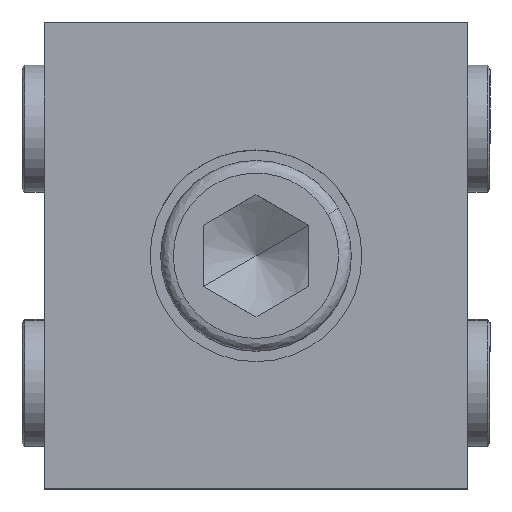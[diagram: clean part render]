
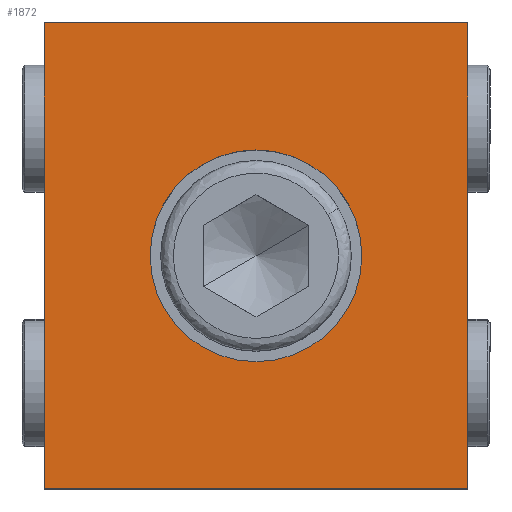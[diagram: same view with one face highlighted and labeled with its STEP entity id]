
A CAD part, top view. The second image highlights one B-rep face of the part: STEP entity #1872.
In plain terms, the highlighted planar face has unit normal (0, 0, 1).
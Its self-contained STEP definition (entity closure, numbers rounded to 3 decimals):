
#50 = DIRECTION ( 'NONE',  ( 0., 1., 0. ) ) ;
#62 = CARTESIAN_POINT ( 'NONE',  ( 0., 0., 21.4 ) ) ;
#64 = EDGE_CURVE ( 'NONE', #685, #1712, #2084, .T. ) ;
#72 = ORIENTED_EDGE ( 'NONE', *, *, #64, .T. ) ;
#116 = VECTOR ( 'NONE', #2059, 1000. ) ;
#132 = EDGE_LOOP ( 'NONE', ( #1108, #1057 ) ) ;
#137 = CARTESIAN_POINT ( 'NONE',  ( 20., -22., 21.4 ) ) ;
#169 = DIRECTION ( 'NONE',  ( 0., 0., 1. ) ) ;
#198 = LINE ( 'NONE', #1237, #1222 ) ;
#240 = EDGE_CURVE ( 'NONE', #452, #685, #198, .T. ) ;
#244 = VERTEX_POINT ( 'NONE', #1918 ) ;
#287 = CARTESIAN_POINT ( 'NONE',  ( -20., -22., 21.4 ) ) ;
#352 = VERTEX_POINT ( 'NONE', #1985 ) ;
#364 = LINE ( 'NONE', #1201, #531 ) ;
#432 = CIRCLE ( 'NONE', #1707, 10. ) ;
#452 = VERTEX_POINT ( 'NONE', #1156 ) ;
#479 = ORIENTED_EDGE ( 'NONE', *, *, #963, .T. ) ;
#517 = DIRECTION ( 'NONE',  ( 0., 1., 0. ) ) ;
#531 = VECTOR ( 'NONE', #876, 1000. ) ;
#685 = VERTEX_POINT ( 'NONE', #137 ) ;
#687 = PLANE ( 'NONE',  #1702 ) ;
#690 = EDGE_CURVE ( 'NONE', #1712, #244, #364, .T. ) ;
#694 = FACE_OUTER_BOUND ( 'NONE', #1175, .T. ) ;
#790 = AXIS2_PLACEMENT_3D ( 'NONE', #1430, #1967, #2061 ) ;
#862 = VECTOR ( 'NONE', #1684, 1000. ) ;
#876 = DIRECTION ( 'NONE',  ( -1., 0., 0. ) ) ;
#947 = ORIENTED_EDGE ( 'NONE', *, *, #690, .T. ) ;
#963 = EDGE_CURVE ( 'NONE', #244, #452, #1161, .T. ) ;
#991 = CARTESIAN_POINT ( 'NONE',  ( 20., 22., 21.4 ) ) ;
#1018 = ORIENTED_EDGE ( 'NONE', *, *, #240, .T. ) ;
#1057 = ORIENTED_EDGE ( 'NONE', *, *, #1276, .T. ) ;
#1092 = EDGE_CURVE ( 'NONE', #352, #1901, #1377, .T. ) ;
#1108 = ORIENTED_EDGE ( 'NONE', *, *, #1092, .T. ) ;
#1156 = CARTESIAN_POINT ( 'NONE',  ( -20., -22., 21.4 ) ) ;
#1161 = LINE ( 'NONE', #287, #862 ) ;
#1175 = EDGE_LOOP ( 'NONE', ( #479, #1018, #72, #947 ) ) ;
#1201 = CARTESIAN_POINT ( 'NONE',  ( 20., 22., 21.4 ) ) ;
#1222 = VECTOR ( 'NONE', #2091, 1000. ) ;
#1237 = CARTESIAN_POINT ( 'NONE',  ( 20., -22., 21.4 ) ) ;
#1276 = EDGE_CURVE ( 'NONE', #1901, #352, #432, .T. ) ;
#1377 = CIRCLE ( 'NONE', #790, 10. ) ;
#1430 = CARTESIAN_POINT ( 'NONE',  ( 0., 0., 21.4 ) ) ;
#1517 = CARTESIAN_POINT ( 'NONE',  ( 20., -22., 21.4 ) ) ;
#1578 = CARTESIAN_POINT ( 'NONE',  ( 0., -10., 21.4 ) ) ;
#1684 = DIRECTION ( 'NONE',  ( 0., -1., 0. ) ) ;
#1702 = AXIS2_PLACEMENT_3D ( 'NONE', #1750, #169, #517 ) ;
#1707 = AXIS2_PLACEMENT_3D ( 'NONE', #62, #1987, #50 ) ;
#1712 = VERTEX_POINT ( 'NONE', #991 ) ;
#1750 = CARTESIAN_POINT ( 'NONE',  ( 20., -22., 21.4 ) ) ;
#1872 = ADVANCED_FACE ( 'NONE', ( #694, #2261 ), #687, .T. ) ;
#1901 = VERTEX_POINT ( 'NONE', #1578 ) ;
#1918 = CARTESIAN_POINT ( 'NONE',  ( -20., 22., 21.4 ) ) ;
#1967 = DIRECTION ( 'NONE',  ( 0., 0., -1. ) ) ;
#1985 = CARTESIAN_POINT ( 'NONE',  ( 0., 10., 21.4 ) ) ;
#1987 = DIRECTION ( 'NONE',  ( 0., 0., -1. ) ) ;
#2059 = DIRECTION ( 'NONE',  ( 0., 1., 0. ) ) ;
#2061 = DIRECTION ( 'NONE',  ( 0., 1., 0. ) ) ;
#2084 = LINE ( 'NONE', #1517, #116 ) ;
#2091 = DIRECTION ( 'NONE',  ( 1., 0., 0. ) ) ;
#2261 = FACE_BOUND ( 'NONE', #132, .T. ) ;
